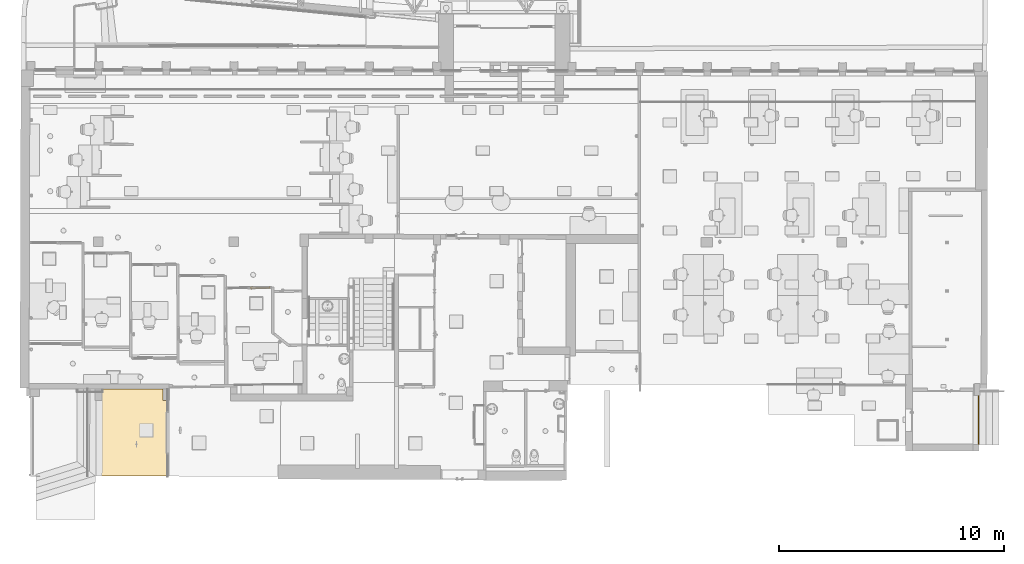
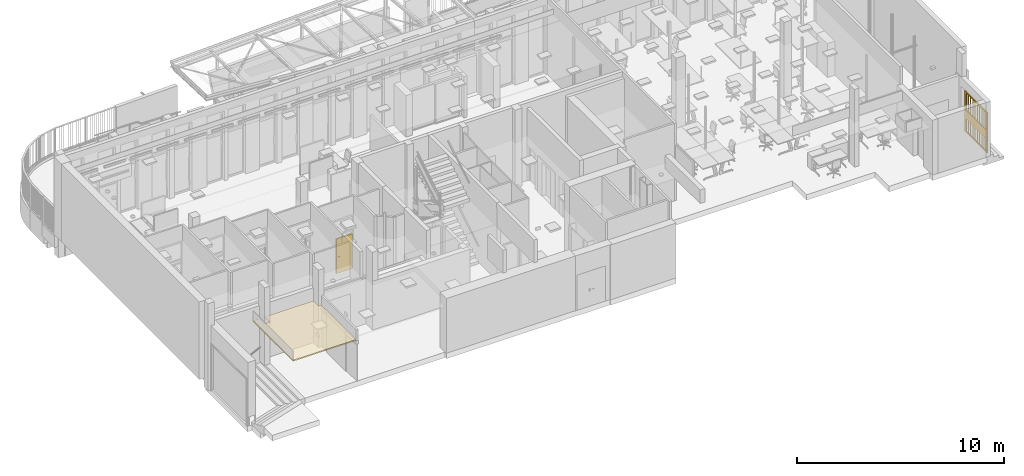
# One storey, part 56 of 128: 2 doors, 1 covering, 2 elements without a shape of their own.
"""IFC2X3 building model written with IfcOpenShell, lengths in metres."""

from ifc_helpers import new_model, entity, si_unit, converted_unit, derived_unit, direction, frame, origin, place, context, subcontext, project, spatial, faceted_brep, source, transform, mapped, material, layer, layer_set, layer_usage, type_object, type_shapes, element, aggregate, save


model = new_model("IFC2X3")

# Units and contexts
model_context = context("Model", 3, precision=1e-05, world=origin(), true_north=direction((6.123031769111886e-17, 1.0)))
body_context = subcontext(model_context, "Body", "Model", "MODEL_VIEW")
ifc_project = project(units=[si_unit("LENGTHUNIT", "METRE"), si_unit("AREAUNIT", "SQUARE_METRE"), converted_unit("PLANEANGLEUNIT", "DEGREE", entity("IfcPlaneAngleMeasure", 0.017453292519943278), si_unit("PLANEANGLEUNIT", "RADIAN"), dimensions=[0, 0, 0, 0, 0, 0, 0]), derived_unit("THERMALTRANSMITTANCEUNIT", [(si_unit("MASSUNIT", "GRAM", prefix="KILO"), 1), (si_unit("THERMODYNAMICTEMPERATUREUNIT", "KELVIN"), -1), (si_unit("TIMEUNIT", "SECOND"), -3)])], contexts=[model_context])

# Site, building, storey
site_placement = place(None, origin())
site = spatial("IfcSite", under=ifc_project, at=site_placement, Name="Default", CompositionType="ELEMENT")
building_placement = place(site_placement, origin())
building = spatial("IfcBuilding", under=site, at=building_placement, CompositionType="ELEMENT")
storey_placement = place(building_placement, origin())
storey = spatial("IfcBuildingStorey", under=building, at=storey_placement, Name="00_RDC CAF", CompositionType="ELEMENT", Elevation=2.4982504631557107e-13)

# Curtain wall, door
curtain_wall_type_1 = type_object("IfcCurtainWallType", Name="Mur-rideau:M.Ri_Vitre_40mm_Montant_70X90mm", PredefinedType="NOTDEFINED")
curtain_wall_1_placement = place(storey_placement, origin())
curtain_wall_1 = element("IfcCurtainWall", 1, at=curtain_wall_1_placement, inside=storey, type_object=curtain_wall_type_1, Name="Mur-rideau:M.Ri_Vitre_40mm_Montant_70X90mm", ObjectType="Mur-rideau:M.Ri_Vitre_40mm_Montant_70X90mm")
ifc_material_1 = material(Name="ARC - M.In - Blanc")
door_style_1 = type_object("IfcDoorStyle", Name="P_Ri_Simple:P_M-Ri_Int_Simple_Pleine_40mm", ConstructionType="NOTDEFINED", OperationType="SINGLE_SWING_LEFT", ParameterTakesPrecedence=False, Sizeable=False, material=ifc_material_1)
shared_shape_1 = source(origin(), body_context, "Body", "Brep", [
    faceted_brep([(0.3657671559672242, 0.03999999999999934, 0.9922195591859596), (0.36981775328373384, 0.03999999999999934, 0.992219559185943), (0.3737924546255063, 0.03999999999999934, 0.9929999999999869), (0.3737924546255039, 0.03999999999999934, 1.0070000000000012), (0.3698177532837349, 0.03999999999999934, 1.007780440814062), (0.3657671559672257, 0.03999999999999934, 1.007780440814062), (0.3617924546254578, 0.03999999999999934, 1.007000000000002), (0.361792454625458, 0.03999999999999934, 0.9930000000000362), (0.3617924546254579, 0.062485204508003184, 0.9930000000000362), (0.3617924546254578, 0.062485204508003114, 1.007000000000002), (0.3657671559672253, 0.06413157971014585, 1.007780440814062), (0.36981775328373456, 0.06580939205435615, 1.007780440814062), (0.3536313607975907, 0.08199578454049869, 1.007780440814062), (0.3519535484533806, 0.07794518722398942, 1.007780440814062), (0.3737924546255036, 0.06745576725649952, 1.0070000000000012), (0.37379245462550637, 0.06745576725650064, 0.9929999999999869), (0.3698177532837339, 0.06580939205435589, 0.992219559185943), (0.36576715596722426, 0.06413157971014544, 0.9922195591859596), (0.3519535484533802, 0.07794518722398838, 0.9922195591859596), (0.35363136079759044, 0.08199578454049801, 0.992219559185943), (0.3503071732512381, 0.07397048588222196, 0.9930000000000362), (0.3503071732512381, 0.0739704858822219, 1.007000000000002), (0.35527773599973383, 0.08597048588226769, 1.0070000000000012), (0.35527773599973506, 0.0859704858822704, 0.9929999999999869), (0.2677466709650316, 0.07794518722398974, 1.0077804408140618), (0.2677466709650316, 0.08199578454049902, 1.0077804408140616), (0.2677466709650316, 0.08597048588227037, 1.0070000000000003), (0.26774667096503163, 0.08597048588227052, 0.9929999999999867), (0.26774667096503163, 0.0819957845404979, 0.9922195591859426), (0.26774667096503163, 0.07794518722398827, 0.9922195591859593), (0.26774667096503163, 0.07397048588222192, 0.9930000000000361), (0.2677466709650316, 0.07397048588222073, 1.0070000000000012), (0.3090269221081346, 0.07397048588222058, 1.0070000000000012), (0.30902691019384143, 0.07397048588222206, 0.9930000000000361), (0.3098501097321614, 0.07997048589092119, 1.007878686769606), (0.31534724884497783, 0.0859704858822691, 1.0070000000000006), (0.3153472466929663, 0.08597048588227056, 0.9929999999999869), (0.30985010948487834, 0.07997048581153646, 0.9921213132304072)], [[[0, 1, 2, 3, 4, 5, 6, 7]], [[8, 7, 6, 9]], [[5, 10, 9, 6]], [[5, 4, 11, 12, 13, 10]], [[3, 14, 11, 4]], [[14, 3, 2, 15]], [[2, 1, 16, 15]], [[1, 0, 17, 18, 19, 16]], [[0, 7, 8, 17]], [[20, 8, 9, 21]], [[9, 10, 13, 21]], [[14, 22, 12, 11]], [[22, 14, 15, 23]], [[15, 16, 19, 23]], [[17, 8, 20, 18]], [[24, 25, 26, 27, 28, 29, 30, 31]], [[21, 32, 31, 30, 33, 20]], [[34, 24, 32]], [[25, 34, 35]], [[13, 32, 21]], [[24, 31, 32]], [[25, 35, 26]], [[35, 12, 22]], [[34, 12, 35]], [[34, 13, 12]], [[34, 32, 13]], [[24, 34, 25]], [[22, 23, 36, 27, 26, 35]], [[37, 28, 36]], [[36, 28, 27]], [[36, 23, 19]], [[18, 33, 37]], [[33, 18, 20]], [[30, 29, 33]], [[37, 29, 28]], [[37, 33, 29]], [[37, 36, 19]], [[18, 37, 19]]]),
    faceted_brep([(0.36576715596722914, -0.010000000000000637, 1.007780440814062), (0.36981775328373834, -0.010000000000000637, 1.0077804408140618), (0.3737924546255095, -0.010000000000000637, 1.0069999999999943), (0.37379245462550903, -0.010000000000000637, 0.9929999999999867), (0.36981775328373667, -0.010000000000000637, 0.9922195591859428), (0.3657671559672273, -0.010000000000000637, 0.9922195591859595), (0.3617924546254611, -0.010000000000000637, 0.9930000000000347), (0.3617924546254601, -0.010000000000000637, 1.0070000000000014), (0.36981775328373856, -0.03600457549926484, 1.0077804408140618), (0.37379245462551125, -0.03765095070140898, 1.007), (0.36576715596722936, -0.03432676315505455, 1.007780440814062), (0.3520910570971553, -0.048002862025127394, 1.007780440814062), (0.35376886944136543, -0.05205345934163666, 1.0077804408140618), (0.36179245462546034, -0.032680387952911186, 1.0070000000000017), (0.3617924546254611, -0.032680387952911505, 0.9930000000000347), (0.3657671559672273, -0.03432676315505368, 0.9922195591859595), (0.36981775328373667, -0.03600457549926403, 0.9922195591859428), (0.35376886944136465, -0.052053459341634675, 0.9922195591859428), (0.35209105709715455, -0.04800286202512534, 0.9922195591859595), (0.37379245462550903, -0.03765095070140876, 0.9929999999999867), (0.35541524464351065, -0.05602816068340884, 1.007), (0.35044468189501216, -0.04402816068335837, 1.0070000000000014), (0.3504446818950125, -0.04402816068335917, 0.9930000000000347), (0.35541524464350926, -0.05602816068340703, 0.9929999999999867), (0.26777381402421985, -0.05602816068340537, 1.0070000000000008), (0.26777381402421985, -0.0520534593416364, 1.0077804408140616), (0.26777381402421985, -0.04800286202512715, 1.0077804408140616), (0.26777381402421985, -0.044028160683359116, 1.0069999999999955), (0.2677738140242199, -0.0440281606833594, 0.9930000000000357), (0.2677738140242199, -0.048002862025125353, 0.9922195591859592), (0.2677738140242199, -0.052053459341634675, 0.9922195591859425), (0.2677738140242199, -0.05602816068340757, 0.9929999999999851), (0.3099324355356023, -0.050028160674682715, 1.0078786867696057), (0.31548475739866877, -0.05602816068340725, 1.0070000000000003), (0.3091092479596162, -0.04402816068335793, 1.0070000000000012), (0.30910924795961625, -0.04402816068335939, 0.993000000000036), (0.30993243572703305, -0.05002816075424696, 0.9921213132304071), (0.31548473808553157, -0.05602816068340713, 0.9929999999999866)], [[[0, 1, 2, 3, 4, 5, 6, 7]], [[2, 1, 8, 9]], [[1, 0, 10, 11, 12, 8]], [[0, 7, 13, 10]], [[13, 7, 6, 14]], [[5, 15, 14, 6]], [[5, 4, 16, 17, 18, 15]], [[3, 19, 16, 4]], [[9, 19, 3, 2]], [[9, 8, 12, 20]], [[10, 13, 21, 11]], [[21, 13, 14, 22]], [[14, 15, 18, 22]], [[16, 19, 23, 17]], [[20, 23, 19, 9]], [[24, 25, 26, 27, 28, 29, 30, 31]], [[32, 25, 33]], [[33, 25, 24]], [[33, 20, 12]], [[11, 34, 32]], [[34, 11, 21]], [[27, 26, 34]], [[32, 26, 25]], [[32, 34, 26]], [[32, 33, 12]], [[11, 32, 12]], [[22, 35, 28, 27, 34, 21]], [[36, 29, 35]], [[30, 36, 37]], [[18, 35, 22]], [[29, 28, 35]], [[30, 37, 31]], [[37, 17, 23]], [[36, 17, 37]], [[36, 18, 17]], [[36, 35, 18]], [[29, 36, 30]], [[23, 20, 33, 24, 31, 37]]]),
    faceted_brep([(0.38779245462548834, 0.034999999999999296, 0.8700000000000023), (0.3877924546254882, 0.034999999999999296, 1.0800000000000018), (0.37814521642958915, 0.03499999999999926, 1.083996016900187), (0.36779245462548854, 0.03499999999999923, 1.0853589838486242), (0.3574396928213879, 0.0349999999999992, 1.083996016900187), (0.34779245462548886, 0.034999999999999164, 1.0800000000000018), (0.3477924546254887, 0.034999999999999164, 0.8700000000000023), (0.35743969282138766, 0.0349999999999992, 0.8660039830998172), (0.3677924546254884, 0.03499999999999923, 0.8646410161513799), (0.3781452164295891, 0.03499999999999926, 0.866003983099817), (0.3877924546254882, 0.03999999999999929, 1.0800000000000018), (0.3877924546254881, 0.03999999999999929, 0.8700000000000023), (0.3781452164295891, 0.03999999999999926, 0.866003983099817), (0.3677924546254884, 0.039999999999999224, 0.8646410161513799), (0.35743969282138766, 0.03999999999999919, 0.8660039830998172), (0.3477924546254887, 0.03999999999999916, 0.8700000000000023), (0.3477924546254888, 0.03999999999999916, 1.0800000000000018), (0.3574396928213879, 0.03999999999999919, 1.083996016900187), (0.36779245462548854, 0.039999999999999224, 1.0853589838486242), (0.37814521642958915, 0.03999999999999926, 1.083996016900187)], [[[0, 1, 2, 3, 4, 5, 6, 7, 8, 9]], [[10, 11, 12, 13, 14, 15, 16, 17, 18, 19]], [[4, 17, 16, 5]], [[3, 18, 17, 4]], [[2, 19, 18, 3]], [[2, 1, 10, 19]], [[10, 1, 0, 11]], [[9, 12, 11, 0]], [[8, 13, 12, 9]], [[7, 14, 13, 8]], [[7, 6, 15, 14]], [[15, 6, 5, 16]]]),
    faceted_brep([(0.3677924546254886, -0.010000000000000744, 0.8646410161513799), (0.3781452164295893, -0.010000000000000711, 0.8660039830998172), (0.3877924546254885, -0.010000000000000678, 0.8700000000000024), (0.38779245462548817, -0.010000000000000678, 1.080000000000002), (0.37814521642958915, -0.010000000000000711, 1.083996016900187), (0.36779245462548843, -0.010000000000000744, 1.0853589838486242), (0.3574396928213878, -0.010000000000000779, 1.083996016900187), (0.3477924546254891, -0.010000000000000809, 1.0800000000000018), (0.34779245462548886, -0.010000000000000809, 0.8700000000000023), (0.35743969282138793, -0.010000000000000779, 0.866003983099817), (0.3877924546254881, -0.005000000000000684, 1.080000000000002), (0.3877924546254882, -0.005000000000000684, 0.8700000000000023), (0.37814521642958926, -0.005000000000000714, 0.8660039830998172), (0.36779245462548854, -0.005000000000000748, 0.8646410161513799), (0.3574396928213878, -0.005000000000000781, 0.866003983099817), (0.3477924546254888, -0.005000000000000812, 0.8700000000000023), (0.34779245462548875, -0.005000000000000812, 1.0800000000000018), (0.35743969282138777, -0.005000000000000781, 1.083996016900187), (0.3677924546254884, -0.005000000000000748, 1.0853589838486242), (0.3781452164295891, -0.005000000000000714, 1.083996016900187)], [[[0, 1, 2, 3, 4, 5, 6, 7, 8, 9]], [[10, 11, 12, 13, 14, 15, 16, 17, 18, 19]], [[1, 12, 11, 2]], [[0, 13, 12, 1]], [[9, 14, 13, 0]], [[9, 8, 15, 14]], [[15, 8, 7, 16]], [[6, 17, 16, 7]], [[5, 18, 17, 6]], [[4, 19, 18, 5]], [[4, 3, 10, 19]], [[10, 3, 2, 11]]]),
    faceted_brep([(0.41779245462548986, -0.004999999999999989, 2.004999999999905), (0.4177924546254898, 0.03500000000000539, 2.004999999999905), (-0.417792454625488, 0.03500000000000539, 2.004999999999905), (-0.41779245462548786, -0.004999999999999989, 2.004999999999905), (0.41779245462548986, -0.004999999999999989, 0.0), (-0.41779245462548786, -0.004999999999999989, 0.0), (-0.417792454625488, 0.03500000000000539, 0.0), (0.4177924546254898, 0.03500000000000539, 0.0)], [[[0, 1, 2, 3]], [[4, 5, 6, 7]], [[1, 0, 4, 7]], [[2, 1, 7, 6]], [[3, 2, 6, 5]], [[0, 3, 5, 4]]]),
    faceted_brep([(-0.452792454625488, -0.03499999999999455, 0.0), (-0.452792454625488, 0.0350000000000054, 0.0), (-0.4177924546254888, 0.035000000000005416, 0.0), (-0.4177924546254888, -0.0049999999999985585, 0.0), (-0.40279245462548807, -0.0049999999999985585, 0.0), (-0.40279245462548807, -0.034999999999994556, 0.0), (-0.45279245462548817, -0.03499999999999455, 2.039999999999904), (-0.45279245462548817, 0.0350000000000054, 2.039999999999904), (0.4527924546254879, 0.0350000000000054, 2.039999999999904), (0.4527924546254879, 0.0350000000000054, 0.0), (0.4177924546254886, 0.035000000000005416, 0.0), (0.41779245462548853, 0.035000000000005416, 2.004999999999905), (-0.41779245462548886, 0.035000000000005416, 2.004999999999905), (-0.41779245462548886, -0.0049999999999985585, 2.004999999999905), (0.41779245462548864, -0.0049999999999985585, 2.004999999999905), (0.41779245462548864, -0.0049999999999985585, 0.0), (0.4027924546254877, -0.0049999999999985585, 0.0), (0.40279245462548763, -0.0049999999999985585, 1.9899999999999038), (-0.40279245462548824, -0.0049999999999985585, 1.989999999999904), (-0.40279245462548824, -0.034999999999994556, 1.989999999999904), (0.4027924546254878, -0.034999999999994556, 1.9899999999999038), (0.4027924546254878, -0.034999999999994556, 0.0), (0.4527924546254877, -0.034999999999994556, 0.0), (0.4527924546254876, -0.034999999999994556, 2.039999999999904)], [[[0, 1, 2, 3, 4, 5]], [[1, 0, 6, 7]], [[2, 1, 7, 8, 9, 10, 11, 12]], [[3, 2, 12, 13]], [[4, 3, 13, 14, 15, 16, 17, 18]], [[5, 4, 18, 19]], [[0, 5, 19, 20, 21, 22, 23, 6]], [[8, 23, 22, 9]], [[22, 21, 16, 15, 10, 9]], [[14, 11, 10, 15]], [[20, 17, 16, 21]], [[7, 6, 23, 8]], [[13, 12, 11, 14]], [[19, 18, 17, 20]]]),
])
type_shapes(door_style_1, [shared_shape_1])
door_1_placement = place(curtain_wall_1_placement, frame((16.906246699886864, 134.51238575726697, 0.0), z_axis=(0.0, 0.0, 1.0), x_axis=(-0.9998908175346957, -0.014776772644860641, 0.0)))
door_1 = element("IfcDoor", 2, at=door_1_placement, type_object=door_style_1, material=ifc_material_1, Name="P_Ri_Simple:P_M-Ri_Int_Simple_Pleine_40mm", ObjectType="P_Ri_Simple:P_M-Ri_Int_Simple_Pleine_40mm", OverallHeight=2.0399999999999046, OverallWidth=0.9055849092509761, context=body_context, shape_type="MappedRepresentation", body=[
    mapped(shared_shape_1, transform((0.0, 0.0, 0.0), scale=1.0)),
])
aggregate(curtain_wall_1, [door_1])

curtain_wall_type_2 = type_object("IfcCurtainWallType", PredefinedType="NOTDEFINED")
curtain_wall_2_placement = place(storey_placement, origin())
curtain_wall_2 = element("IfcCurtainWall", 3, at=curtain_wall_2_placement, inside=storey, type_object=curtain_wall_type_2)
ifc_material_2 = material(Name="ARC - M.Ex - Blanc")
door_style_2 = type_object("IfcDoorStyle", Name="P_Ri_barreau:P_M-Ri_Ext_Barreau_50mm", ConstructionType="NOTDEFINED", OperationType="SINGLE_SWING_RIGHT", ParameterTakesPrecedence=False, Sizeable=False, material=ifc_material_2)
shared_shape_2 = source(origin(), body_context, "Body", "Brep", [
    faceted_brep([(1.0300000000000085, -0.027499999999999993, 0.06000000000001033), (-1.0299999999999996, -0.027499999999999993, 0.06000000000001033), (-1.0299999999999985, -0.027499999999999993, 0.0), (1.0300000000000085, -0.027499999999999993, 0.0), (1.0300000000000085, 0.027499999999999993, 0.0), (1.0300000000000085, 0.027499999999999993, 0.06000000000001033), (1.0300000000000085, 0.0250000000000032, 0.06000000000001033), (1.0300000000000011, 0.0250000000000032, 2.345000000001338), (1.0300000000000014, -0.024999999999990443, 2.345000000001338), (1.0300000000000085, -0.024999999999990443, 0.06000000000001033), (-1.0299999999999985, 0.027499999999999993, 0.0), (-1.0299999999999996, -0.024999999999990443, 0.060000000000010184), (-1.0300000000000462, -0.024999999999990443, 2.345000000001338), (-1.0300000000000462, 0.0250000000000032, 2.345000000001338), (-1.0299999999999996, 0.0250000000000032, 0.06000000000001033), (-1.0299999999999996, 0.027499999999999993, 0.06000000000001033), (0.980000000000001, -0.024999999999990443, 0.06000000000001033), (0.980000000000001, 0.0250000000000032, 0.06000000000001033), (-0.9799999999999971, 0.0250000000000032, 0.06000000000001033), (-0.9799999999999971, -0.024999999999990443, 0.06000000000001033), (-0.9799999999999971, -0.024999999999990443, 2.2950000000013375), (0.9800000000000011, -0.024999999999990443, 2.2950000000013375), (-0.9799999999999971, 0.0250000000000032, 2.2950000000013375), (0.9800000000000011, 0.0250000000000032, 2.2950000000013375)], [[[0, 1, 2, 3]], [[3, 4, 5, 6, 7, 8, 9, 0]], [[10, 4, 3, 2]], [[1, 11, 12, 13, 14, 15, 10, 2]], [[0, 9, 16, 17, 6, 5, 15, 14, 18, 19, 11, 1]], [[5, 4, 10, 15]], [[12, 11, 19, 20, 21, 16, 9, 8]], [[22, 18, 14, 13, 7, 6, 17, 23]], [[20, 19, 18, 22]], [[23, 17, 16, 21]], [[13, 12, 8, 7]], [[22, 23, 21, 20]]]),
    faceted_brep([(1.0800000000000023, -0.024999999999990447, 0.0), (1.030000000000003, -0.024999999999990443, 0.0), (1.030000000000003, 0.025000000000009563, 0.0), (1.0800000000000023, 0.025000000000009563, 0.0), (1.0800000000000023, 0.025000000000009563, 2.3950000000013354), (1.0800000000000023, -0.024999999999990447, 2.3950000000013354), (1.030000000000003, 0.025000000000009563, 2.345000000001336), (-1.0300000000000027, 0.025000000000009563, 2.345000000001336), (-1.0300000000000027, 0.025000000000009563, 0.0), (-1.0800000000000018, 0.025000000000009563, 0.0), (-1.0800000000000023, 0.025000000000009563, 2.3950000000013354), (1.0300000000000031, -0.024999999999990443, 2.345000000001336), (-1.0800000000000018, -0.024999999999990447, 2.395000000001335), (-1.0800000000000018, -0.024999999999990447, 0.0), (-1.0300000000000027, -0.024999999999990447, 0.0), (-1.030000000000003, -0.024999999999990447, 2.345000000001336)], [[[0, 1, 2, 3]], [[3, 4, 5, 0]], [[2, 6, 7, 8, 9, 10, 4, 3]], [[1, 11, 6, 2]], [[0, 5, 12, 13, 14, 15, 11, 1]], [[10, 9, 13, 12]], [[13, 9, 8, 14]], [[15, 14, 8, 7]], [[4, 10, 12, 5]], [[11, 15, 7, 6]]]),
    faceted_brep([(-0.7644444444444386, 0.02500000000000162, 0.0600000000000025), (-0.7444444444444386, 0.02500000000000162, 0.06000000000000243), (-0.7444444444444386, -0.024999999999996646, 0.06000000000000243), (-0.7644444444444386, -0.024999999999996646, 0.0600000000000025), (-0.7644444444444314, 0.02500000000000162, 2.295000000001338), (-0.7644444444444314, -0.024999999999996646, 2.295000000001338), (-0.7444444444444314, -0.024999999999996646, 2.295000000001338), (-0.7444444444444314, 0.02500000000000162, 2.295000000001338)], [[[0, 1, 2, 3]], [[4, 0, 3, 5]], [[5, 3, 2, 6]], [[6, 2, 1, 7]], [[7, 1, 0, 4]], [[4, 5, 6, 7]]]),
    faceted_brep([(-0.5488888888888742, 0.02500000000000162, 0.06000000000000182), (-0.5288888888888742, 0.02500000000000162, 0.06000000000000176), (-0.5288888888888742, -0.024999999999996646, 0.06000000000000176), (-0.5488888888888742, -0.024999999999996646, 0.06000000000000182), (-0.548888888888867, 0.02500000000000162, 2.2950000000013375), (-0.548888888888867, -0.024999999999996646, 2.2950000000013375), (-0.5288888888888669, -0.024999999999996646, 2.2950000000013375), (-0.5288888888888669, 0.02500000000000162, 2.2950000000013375)], [[[0, 1, 2, 3]], [[4, 0, 3, 5]], [[5, 3, 2, 6]], [[6, 2, 1, 7]], [[7, 1, 0, 4]], [[4, 5, 6, 7]]]),
    faceted_brep([(-0.33333333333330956, 0.025000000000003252, 0.06000000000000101), (-0.3133333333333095, 0.025000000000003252, 0.06000000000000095), (-0.3133333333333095, -0.02499999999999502, 0.06000000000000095), (-0.33333333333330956, -0.02499999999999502, 0.06000000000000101), (-0.3333333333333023, 0.025000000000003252, 2.2950000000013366), (-0.3333333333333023, -0.02499999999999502, 2.2950000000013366), (-0.31333333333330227, -0.02499999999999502, 2.2950000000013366), (-0.31333333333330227, 0.025000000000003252, 2.2950000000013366)], [[[0, 1, 2, 3]], [[4, 0, 3, 5]], [[5, 3, 2, 6]], [[6, 2, 1, 7]], [[7, 1, 0, 4]], [[4, 5, 6, 7]]]),
    faceted_brep([(-0.11777777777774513, 0.025000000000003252, 0.06000000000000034), (-0.09777777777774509, 0.025000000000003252, 0.06000000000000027), (-0.09777777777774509, -0.02499999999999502, 0.06000000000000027), (-0.11777777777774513, -0.02499999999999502, 0.06000000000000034), (-0.1177777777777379, 0.025000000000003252, 2.2950000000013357), (-0.1177777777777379, -0.02499999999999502, 2.2950000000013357), (-0.09777777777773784, -0.02499999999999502, 2.2950000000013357), (-0.09777777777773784, 0.025000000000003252, 2.2950000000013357)], [[[0, 1, 2, 3]], [[4, 0, 3, 5]], [[5, 3, 2, 6]], [[6, 2, 1, 7]], [[7, 1, 0, 4]], [[4, 5, 6, 7]]]),
    faceted_brep([(0.09777777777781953, 0.025000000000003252, 0.05999999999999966), (0.11777777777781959, 0.025000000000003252, 0.059999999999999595), (0.11777777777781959, -0.02499999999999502, 0.059999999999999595), (0.09777777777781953, -0.02499999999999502, 0.05999999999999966), (0.09777777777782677, 0.025000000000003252, 2.2950000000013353), (0.09777777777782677, -0.02499999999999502, 2.2950000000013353), (0.11777777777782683, -0.02499999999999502, 2.2950000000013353), (0.11777777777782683, 0.025000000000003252, 2.2950000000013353)], [[[0, 1, 2, 3]], [[4, 0, 3, 5]], [[5, 3, 2, 6]], [[6, 2, 1, 7]], [[7, 1, 0, 4]], [[4, 5, 6, 7]]]),
    faceted_brep([(0.3133333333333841, 0.025000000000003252, 0.059999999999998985), (0.3333333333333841, 0.025000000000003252, 0.059999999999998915), (0.3333333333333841, -0.02499999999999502, 0.059999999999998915), (0.3133333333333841, -0.02499999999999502, 0.059999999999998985), (0.3133333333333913, 0.025000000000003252, 2.2950000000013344), (0.3133333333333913, -0.02499999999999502, 2.2950000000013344), (0.3333333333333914, -0.02499999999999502, 2.2950000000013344), (0.3333333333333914, 0.025000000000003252, 2.2950000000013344)], [[[0, 1, 2, 3]], [[4, 0, 3, 5]], [[5, 3, 2, 6]], [[6, 2, 1, 7]], [[7, 1, 0, 4]], [[4, 5, 6, 7]]]),
    faceted_brep([(0.5288888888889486, 0.025000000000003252, 0.059999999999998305), (0.5488888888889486, 0.025000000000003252, 0.059999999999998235), (0.5488888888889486, -0.02499999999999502, 0.059999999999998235), (0.5288888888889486, -0.02499999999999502, 0.059999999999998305), (0.5288888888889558, 0.025000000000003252, 2.295000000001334), (0.5288888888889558, -0.02499999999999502, 2.295000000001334), (0.5488888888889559, -0.02499999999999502, 2.295000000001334), (0.5488888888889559, 0.025000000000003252, 2.295000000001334)], [[[0, 1, 2, 3]], [[4, 0, 3, 5]], [[5, 3, 2, 6]], [[6, 2, 1, 7]], [[7, 1, 0, 4]], [[4, 5, 6, 7]]]),
    faceted_brep([(0.744444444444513, 0.025000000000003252, 0.05999999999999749), (0.7644444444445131, 0.025000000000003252, 0.05999999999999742), (0.7644444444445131, -0.02499999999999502, 0.05999999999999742), (0.744444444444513, -0.02499999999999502, 0.05999999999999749), (0.7444444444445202, 0.025000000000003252, 2.295000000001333), (0.7444444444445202, -0.02499999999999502, 2.295000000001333), (0.7644444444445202, -0.02499999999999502, 2.295000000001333), (0.7644444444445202, 0.025000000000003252, 2.295000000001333)], [[[0, 1, 2, 3]], [[4, 0, 3, 5]], [[5, 3, 2, 6]], [[6, 2, 1, 7]], [[7, 1, 0, 4]], [[4, 5, 6, 7]]]),
    faceted_brep([(-0.9800000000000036, 0.024999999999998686, 0.060000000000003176), (-0.9600000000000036, 0.024999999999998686, 0.06000000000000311), (-0.9600000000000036, -0.02499999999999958, 0.06000000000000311), (-0.9800000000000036, -0.02499999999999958, 0.060000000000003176), (-0.9799999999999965, 0.024999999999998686, 2.295000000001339), (-0.9799999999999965, -0.02499999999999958, 2.295000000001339), (-0.9599999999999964, -0.02499999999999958, 2.295000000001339), (-0.9599999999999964, 0.024999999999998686, 2.295000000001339)], [[[0, 1, 2, 3]], [[4, 0, 3, 5]], [[5, 3, 2, 6]], [[6, 2, 1, 7]], [[7, 1, 0, 4]], [[4, 5, 6, 7]]]),
    faceted_brep([(0.960000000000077, 0.025000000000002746, 0.05999999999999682), (0.980000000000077, 0.025000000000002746, 0.05999999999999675), (0.980000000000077, -0.024999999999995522, 0.05999999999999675), (0.960000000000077, -0.024999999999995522, 0.05999999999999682), (0.9600000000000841, 0.025000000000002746, 2.295000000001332), (0.9600000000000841, -0.024999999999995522, 2.295000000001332), (0.9800000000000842, -0.024999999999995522, 2.295000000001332), (0.9800000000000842, 0.025000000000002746, 2.295000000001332)], [[[0, 1, 2, 3]], [[4, 0, 3, 5]], [[5, 3, 2, 6]], [[6, 2, 1, 7]], [[7, 1, 0, 4]], [[4, 5, 6, 7]]]),
    faceted_brep([(1.0300000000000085, -0.027499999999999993, 1.3000000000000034), (-1.0299999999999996, -0.027499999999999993, 1.3000000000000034), (-1.0299999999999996, -0.027499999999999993, 0.8000000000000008), (1.0300000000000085, -0.027499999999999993, 0.8000000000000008), (1.0300000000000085, 0.027499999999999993, 1.3000000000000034), (1.0300000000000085, 0.027499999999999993, 0.8000000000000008), (-1.0299999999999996, 0.027499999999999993, 0.8000000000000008), (-1.0299999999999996, 0.027499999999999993, 1.3000000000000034)], [[[0, 1, 2, 3]], [[4, 5, 6, 7]], [[3, 5, 4, 0]], [[2, 6, 5, 3]], [[1, 7, 6, 2]], [[0, 4, 7, 1]]]),
])
type_shapes(door_style_2, [shared_shape_2])
door_2_placement = place(curtain_wall_2_placement, frame((48.7825836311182, 128.6405368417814, 0.0), z_axis=(0.0, 0.0, 1.0), x_axis=(0.0, -1.0, 0.0)))
door_2 = element("IfcDoor", 4, at=door_2_placement, type_object=door_style_2, material=ifc_material_2, Name="P_Ri_barreau:P_M-Ri_Ext_Barreau_50mm", ObjectType="P_Ri_barreau:P_M-Ri_Ext_Barreau_50mm", OverallHeight=2.395000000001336, OverallWidth=2.1600000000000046, context=body_context, shape_type="MappedRepresentation", body=[
    mapped(shared_shape_2, transform((0.0, 0.0, 0.0), scale=1.0)),
])
aggregate(curtain_wall_2, [door_2])

# Covering
ifc_material_3 = material(Name="ARC - FP - Blanc")
ifc_layer_1 = layer(ifc_material_3, 0.02)
ifc_material_4 = material(Name="ARC - FP - Trame 600 x 600")
ifc_layer_2 = layer(ifc_material_4, 0.05)
ifc_layer_set = layer_set([ifc_layer_1, ifc_layer_2], Name="Plafond composé:FP_Dalle-600X600_70mm")
ifc_layer_usage = layer_usage(ifc_layer_set, "AXIS3", "NEGATIVE", 0.07)
covering_type = type_object("IfcCoveringType", Name="Plafond composé:FP_Dalle-600X600_70mm", PredefinedType="CEILING")
covering_placement = place(storey_placement, frame((9.24075093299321, 126.14663208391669, 2.399999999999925)))
element("IfcCovering", 5, at=covering_placement, inside=storey, type_object=covering_type, material=ifc_layer_usage, Name="Plafond composé:FP_Dalle-600X600_70mm", ObjectType="Plafond composé:FP_Dalle-600X600_70mm", PredefinedType="CEILING", context=body_context, shape_type="Brep", body=[
    faceted_brep([(0.0, 0.00880063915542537, 0.0700000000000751), (3.5156403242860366, 0.0, 0.0700000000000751), (3.5156403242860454, 3.358315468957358, 0.0700000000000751), (3.3553820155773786, 3.358741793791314, 0.0700000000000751), (3.3567147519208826, 3.859726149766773, 0.0700000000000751), (0.6489215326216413, 3.866929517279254, 0.0700000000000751), (0.6475858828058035, 3.3648499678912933, 0.0700000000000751), (0.34758694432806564, 3.3656480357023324, 0.0700000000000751), (0.3489225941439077, 3.867727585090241, 0.0700000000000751), (0.0, 3.8686558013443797, 0.0700000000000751), (3.5156403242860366, 0.0, 0.0), (0.0, 0.00880063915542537, 0.0), (0.0, 3.8686558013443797, 0.0), (0.3489225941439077, 3.8677275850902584, 0.0), (0.3475869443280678, 3.3656480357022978, 0.0), (0.6475858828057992, 3.364849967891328, 0.0), (0.6489215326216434, 3.8669295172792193, 0.0), (3.356714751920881, 3.8597261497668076, 0.0), (3.355382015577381, 3.358741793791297, 0.0), (3.5156403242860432, 3.358315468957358, 0.0), (2.3466420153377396, 1.7364949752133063, 0.0), (2.926642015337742, 1.7364949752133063, 0.0), (2.926642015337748, 2.3164949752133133, 0.0), (2.346642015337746, 2.316494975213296, 0.0), (2.9266420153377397, 1.7364949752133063, 0.030000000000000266), (2.3466420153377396, 1.7364949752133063, 0.030000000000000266), (2.346642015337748, 2.3164949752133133, 0.030000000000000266), (2.9266420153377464, 2.316494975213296, 0.030000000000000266)], [[[0, 1, 2, 3, 4, 5, 6, 7, 8, 9]], [[10, 11, 12, 13, 14, 15, 16, 17, 18, 19], [20, 21, 22, 23]], [[1, 0, 11, 10]], [[1, 10, 19, 2]], [[9, 8, 13, 12]], [[24, 25, 26, 27]], [[25, 24, 21, 20]], [[26, 25, 20, 23]], [[27, 26, 23, 22]], [[24, 27, 22, 21]], [[0, 9, 12, 11]], [[14, 7, 6, 15]], [[7, 14, 13, 8]], [[15, 6, 5, 16]], [[18, 3, 2, 19]], [[3, 18, 17, 4]], [[16, 5, 4, 17]]]),
])

save(model, "model.ifc")
